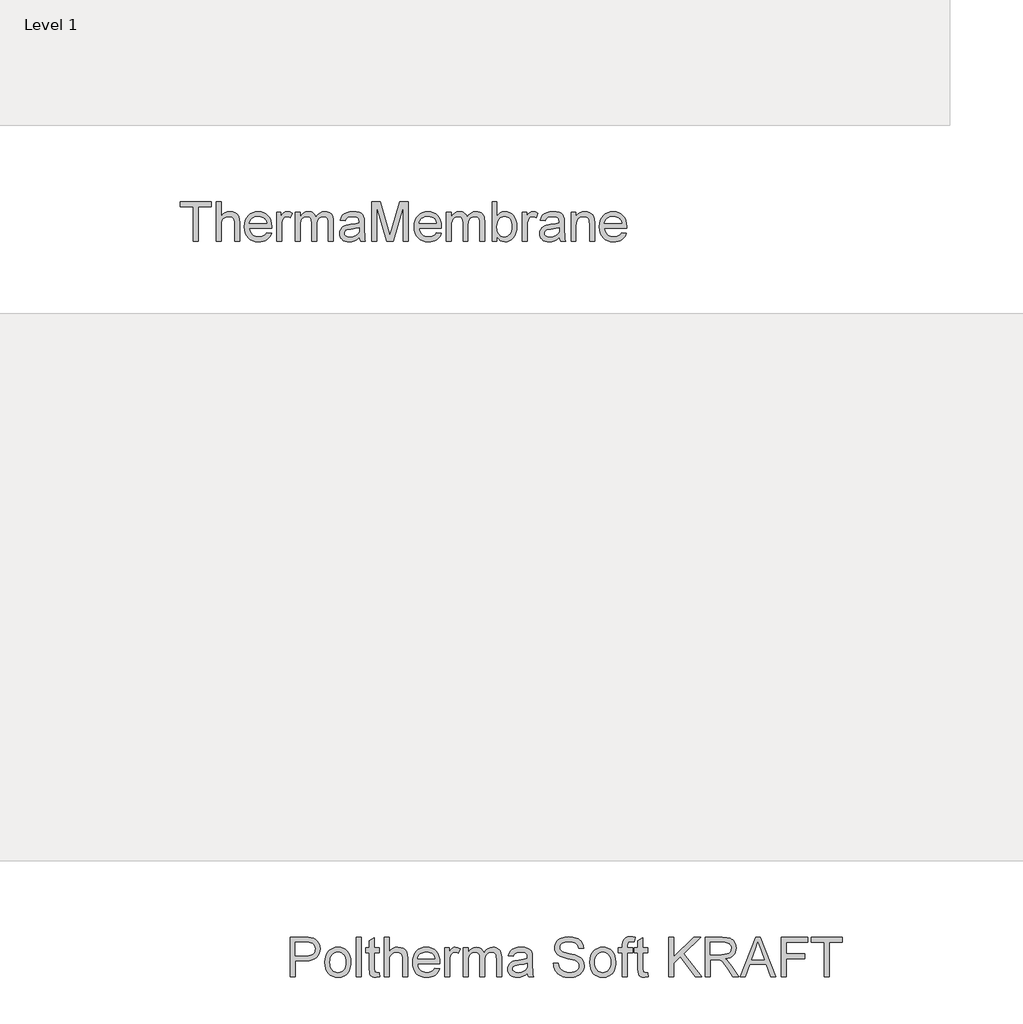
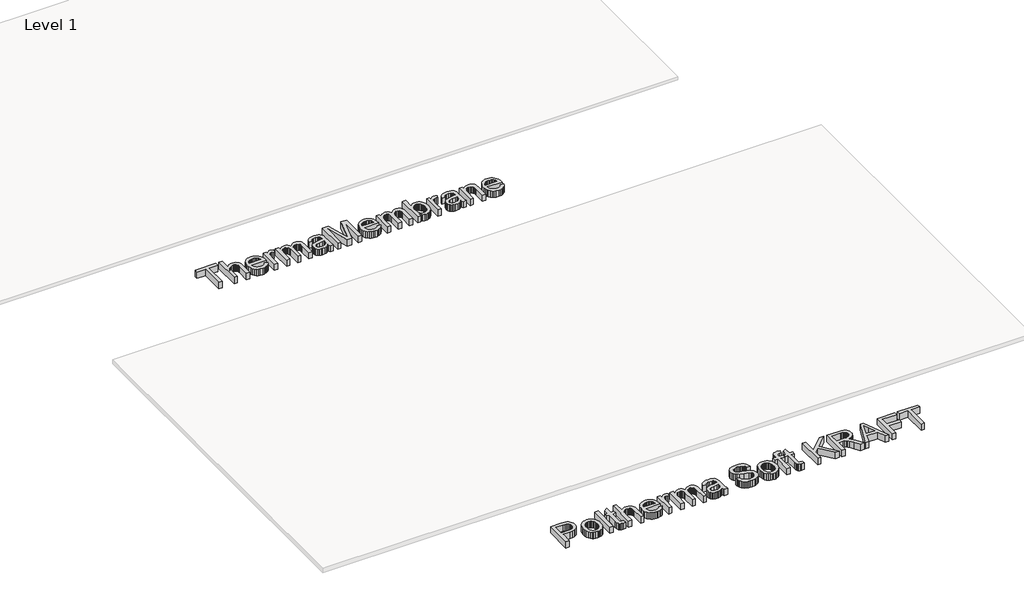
# One storey, part 24 of 27: 2 proxies.
"""IFC4 building model written with IfcOpenShell, lengths in millimetres."""

from ifc_helpers import new_model, si_unit, origin, origin_with_axes, place, context, project, spatial, polyline, outline, extrude, element, save

model = new_model("IFC4")

# Units and contexts
model_context = context("Model", 3, world=origin())
ifc_project = project(units=[si_unit("LENGTHUNIT", "METRE", prefix="MILLI")], contexts=[model_context])

# Site, building, storey
site = spatial("IfcSite", under=ifc_project)
building = spatial("IfcBuilding", under=site)
storey = spatial("IfcBuildingStorey", under=building, Name="Level 1", Elevation=0.0)

# Proxies
placement = place(None, origin())
element("IfcBuildingElementProxy", 1, Name="600mm Arial", ObjectType="600mm Arial", at=placement, inside=storey, context=model_context, shape_type="SweptSolid", body=[
    extrude(outline(polyline([(64774.77699, -34088.4076888), (64774.77699, -33571.4846119), (64580.9308362, -33571.4846119), (64580.9308362, -33497.6384581), (65042.4692977, -33497.6384581), (65042.4692977, -33571.4846119), (64848.6231439, -33571.4846119), (64848.6231439, -34088.4076888), (64774.77699, -34088.4076888)])), origin_with_axes(), (0.0, 0.0, 1.0), 150.0),
    extrude(outline(polyline([(65116.3154516, -34088.4076888), (65116.3154516, -33497.6384581), (65190.1616054, -33497.6384581), (65190.1616054, -33714.8499965), (65217.2860045, -33684.4353331), (65247.74574, -33662.7105734), (65281.5408122, -33649.6757177), (65318.6712208, -33645.3307657), (65363.2745862, -33650.0723523), (65401.6039131, -33664.2971119), (65431.7842016, -33686.8872561), (65451.9404516, -33716.7249965), (65463.2986247, -33757.7225927), (65467.0846824, -33813.7923042), (65467.0846824, -34088.4076888), (65393.2385285, -34088.4076888), (65393.2385285, -33821.436535), (65391.7691775, -33796.5026407), (65387.3611247, -33775.2105734), (65380.0143699, -33757.5603331), (65369.7289131, -33743.5519196), (65356.7481439, -33732.8878571), (65341.3154516, -33725.2706696), (65323.4308362, -33720.7003571), (65303.0942977, -33719.1769196), (65271.886365, -33723.2874965), (65242.58949, -33735.6192273), (65218.3226631, -33754.9822081), (65202.2048747, -33780.186535), (65193.1724227, -33813.6841311), (65190.1616054, -33857.9269196), (65190.1616054, -34088.4076888), (65116.3154516, -34088.4076888)])), origin_with_axes(), (0.0, 0.0, 1.0), 150.0),
    extrude(outline(polyline([(65872.3731439, -33959.1769196), (65944.77699, -33968.4076888), (65933.675728, -33997.4070879), (65918.6892497, -34022.9629773), (65899.8175549, -34045.0753571), (65877.0606439, -34063.7442273), (65850.6528915, -34078.5729532), (65820.8286727, -34089.1649004), (65787.5879876, -34095.5200686), (65750.9308362, -34097.6384581), (65705.1105237, -34093.9831095), (65664.2842016, -34083.0170638), (65628.4518699, -34064.740321), (65597.6135285, -34039.1528811), (65572.8148506, -34006.9668835), (65555.1015093, -33968.8944677), (65544.4735045, -33924.9356335), (65540.9308362, -33875.0903811), (65544.5095622, -33823.5549244), (65555.24574, -33778.1312465), (65573.1393699, -33738.8193475), (65598.1904516, -33705.6192273), (65628.9476631, -33679.2430254), (65663.9596824, -33660.4028811), (65703.2265093, -33649.0987946), (65746.7481439, -33645.3307657), (65788.8680357, -33649.0897802), (65826.9584804, -33660.3668234), (65861.019478, -33679.1618956), (65891.0510285, -33705.4749965), (65915.5657521, -33738.6030013), (65933.0762689, -33777.842785), (65943.582579, -33823.1943475), (65947.0846824, -33874.6576888), (65946.65199, -33894.561535), (65614.77699, -33894.561535), (65619.0543338, -33924.029684), (65627.559442, -33949.8379773), (65640.2923146, -33971.9864148), (65657.2529516, -33990.4749965), (65677.503853, -34005.0513186), (65700.1075189, -34015.4629773), (65725.0639492, -34021.7099725), (65752.3731439, -34023.7923042), (65791.6760285, -34019.9341311), (65824.77699, -34008.3596119), (65851.6760285, -33988.3475927), (65872.3731439, -33959.1769196)]), holes=[polyline([(65614.77699, -33820.7153811), (65873.2385285, -33820.7153811), (65863.2505477, -33781.7009581), (65854.6598025, -33766.35841), (65843.6712208, -33753.7923042), (65823.5329997, -33738.6480734), (65800.6183362, -33727.8307657), (65774.9272304, -33721.3403811), (65746.4596824, -33719.1769196), (65720.4936367, -33720.9031816), (65696.6820381, -33726.0819677), (65675.0248867, -33734.7132778), (65655.5221824, -33746.7971119), (65639.1564973, -33761.7745758), (65626.9104035, -33779.0867754), (65618.7839011, -33798.7337105), (65614.77699, -33820.7153811)])]), origin_with_axes(), (0.0, 0.0, 1.0), 150.0),
    extrude(outline(polyline([(66020.9308362, -34088.4076888), (66020.9308362, -33654.561535), (66085.5462208, -33654.561535), (66085.5462208, -33718.7442273), (66109.4164131, -33681.5326888), (66131.4116054, -33659.6096119), (66153.4789131, -33648.9004773), (66177.5654516, -33645.3307657), (66214.3442977, -33651.0278811), (66251.700067, -33668.1192273), (66227.0366054, -33734.3211504), (66201.075067, -33722.9629773), (66175.1135285, -33719.1769196), (66153.0642497, -33722.8187465), (66133.3587208, -33733.7442273), (66117.4392497, -33751.124035), (66106.7481439, -33774.1288427), (66097.7697785, -33815.3788427), (66094.77699, -33860.3788427), (66094.77699, -34088.4076888), (66020.9308362, -34088.4076888)])), origin_with_axes(), (0.0, 0.0, 1.0), 150.0),
    extrude(outline(polyline([(66297.8539131, -34088.4076888), (66297.8539131, -33654.561535), (66371.700067, -33654.561535), (66371.700067, -33725.9557657), (66393.9116054, -33693.1612946), (66422.4692977, -33667.4701888), (66456.3995862, -33650.8656215), (66494.7289131, -33645.3307657), (66535.7986247, -33650.9737946), (66553.277591, -33658.0275806), (66568.7192977, -33667.9028811), (66593.3106439, -33695.0002369), (66609.3923747, -33731.1480734), (66636.309442, -33693.6030013), (66667.012567, -33666.7850927), (66701.5017497, -33650.6943475), (66739.77699, -33645.3307657), (66769.3397905, -33647.5618355), (66795.2878074, -33654.2550446), (66817.6210405, -33665.4103931), (66836.33949, -33681.0278811), (66851.1366655, -33701.287797), (66861.7060766, -33726.3704292), (66868.0477232, -33756.2757778), (66870.1616054, -33791.0038427), (66870.1616054, -34088.4076888), (66796.3154516, -34088.4076888), (66796.3154516, -33822.7346119), (66794.6027112, -33785.9016792), (66789.46449, -33761.0759581), (66779.8370862, -33744.0747561), (66764.6567977, -33730.7153811), (66745.1315574, -33722.061535), (66722.4692977, -33719.1769196), (66701.5423146, -33721.0248763), (66682.4632881, -33726.5687465), (66665.2322184, -33735.8085302), (66649.8491054, -33748.7442273), (66637.1973626, -33765.7544436), (66628.1604035, -33787.217785), (66622.738228, -33813.1342513), (66620.9308362, -33843.5038427), (66620.9308362, -34088.4076888), (66547.0846824, -34088.4076888), (66547.0846824, -33814.5134581), (66542.8118458, -33772.7586504), (66529.9933362, -33742.9749965), (66520.081978, -33732.5633379), (66507.4392497, -33725.1264388), (66492.0651511, -33720.6642994), (66473.9596824, -33719.1769196), (66445.5101631, -33723.1432657), (66419.2962208, -33735.0423042), (66397.6616054, -33754.5855734), (66382.950067, -33781.4846119), (66374.512567, -33818.8043234), (66371.700067, -33869.6096119), (66371.700067, -34088.4076888), (66297.8539131, -34088.4076888)])), origin_with_axes(), (0.0, 0.0, 1.0), 150.0),
    extrude(outline(polyline([(67257.8539131, -34033.0230734), (67222.5714612, -34063.2754773), (67186.2433362, -34083.0711504), (67148.0402112, -34093.9966311), (67107.1327593, -34097.6384581), (67074.2526511, -34095.4479532), (67045.4200189, -34088.8764388), (67020.6348626, -34077.9239148), (66999.8971824, -34062.5903811), (66983.5224828, -34043.8493956), (66971.8262689, -34022.6745157), (66964.8085405, -33999.0657417), (66962.4692977, -33973.0230734), (66966.0029516, -33942.4100927), (66976.6039131, -33914.6096119), (66992.9560766, -33890.811535), (67013.7433362, -33872.2057657), (67038.1724227, -33858.1432657), (67065.450067, -33847.9749965), (67129.3442977, -33836.8692273), (67204.8491054, -33825.186535), (67257.4212208, -33811.4846119), (67257.8539131, -33795.0423042), (67252.7697785, -33762.0855734), (67246.4146102, -33749.8800446), (67237.5173747, -33740.5230734), (67222.1387689, -33731.1841311), (67203.4067977, -33724.5134581), (67155.8827593, -33719.1769196), (67111.8923747, -33722.7286023), (67081.1712208, -33733.3836504), (67060.2217016, -33753.0891792), (67045.5462208, -33783.7923042), (66971.700067, -33774.561535), (66984.5185766, -33734.1769196), (67003.6471824, -33702.4461504), (67030.87074, -33678.1793234), (67067.9741054, -33660.186535), (67113.3527112, -33649.0447081), (67165.40199, -33645.3307657), (67215.323865, -33648.6120157), (67254.8971824, -33658.4557657), (67284.7349227, -33673.2574484), (67305.450067, -33691.4124965), (67319.1880477, -33713.85841), (67328.0942977, -33741.5326888), (67331.700067, -33806.1480734), (67331.700067, -33898.0230734), (67335.450067, -34026.3163427), (67341.0029516, -34058.0290831), (67350.1616054, -34088.4076888), (67276.3154516, -34088.4076888), (67264.4885285, -34062.7346119), (67257.8539131, -34033.0230734)]), holes=[polyline([(67257.8539131, -33885.3307657), (67208.2385285, -33897.6264388), (67138.7192977, -33907.9749965), (67075.1856439, -33919.9461504), (67058.653192, -33928.1312465), (67046.4116054, -33939.4173042), (67038.83949, -33952.9389388), (67036.3154516, -33967.8307657), (67041.8142497, -33989.7899004), (67058.3106439, -34007.7826888), (67085.4440574, -34019.7899004), (67122.8539131, -34023.7923042), (67162.5173747, -34019.3752369), (67197.5654516, -34006.124035), (67225.9789131, -33986.5987946), (67245.7385285, -33963.3596119), (67254.5005477, -33939.4173042), (67257.4212208, -33906.2442273), (67257.8539131, -33885.3307657)])]), origin_with_axes(), (0.0, 0.0, 1.0), 150.0),
    extrude(outline(polyline([(67442.4692977, -34088.4076888), (67442.4692977, -33497.6384581), (67569.5366054, -33497.6384581), (67690.40199, -33914.0326888), (67714.77699, -34001.0038427), (67741.1712208, -33906.8211504), (67860.0173747, -33497.6384581), (67987.0846824, -33497.6384581), (67987.0846824, -34088.4076888), (67913.2385285, -34088.4076888), (67913.2385285, -33571.4846119), (67764.825067, -34088.4076888), (67664.7289131, -34088.4076888), (67516.3154516, -33571.4846119), (67516.3154516, -34088.4076888), (67442.4692977, -34088.4076888)])), origin_with_axes(), (0.0, 0.0, 1.0), 150.0),
    extrude(outline(polyline([(68410.8346824, -33959.1769196), (68483.2385285, -33968.4076888), (68472.1372665, -33997.4070879), (68457.1507881, -34022.9629773), (68438.2790934, -34045.0753571), (68415.5221824, -34063.7442273), (68389.1144299, -34078.5729532), (68359.2902112, -34089.1649004), (68326.0495261, -34095.5200686), (68289.3923747, -34097.6384581), (68243.5720622, -34093.9831095), (68202.74574, -34083.0170638), (68166.9134083, -34064.740321), (68136.075067, -34039.1528811), (68111.2763891, -34006.9668835), (68093.5630477, -33968.8944677), (68082.9350429, -33924.9356335), (68079.3923747, -33875.0903811), (68082.9711006, -33823.5549244), (68093.7072785, -33778.1312465), (68111.6009083, -33738.8193475), (68136.65199, -33705.6192273), (68167.4092016, -33679.2430254), (68202.4212208, -33660.4028811), (68241.6880477, -33649.0987946), (68285.2096824, -33645.3307657), (68327.3295742, -33649.0897802), (68365.4200189, -33660.3668234), (68399.4810165, -33679.1618956), (68429.512567, -33705.4749965), (68454.0272905, -33738.6030013), (68471.5378074, -33777.842785), (68482.0441174, -33823.1943475), (68485.5462208, -33874.6576888), (68485.1135285, -33894.561535), (68153.2385285, -33894.561535), (68157.5158723, -33924.029684), (68166.0209804, -33949.8379773), (68178.753853, -33971.9864148), (68195.71449, -33990.4749965), (68215.9653915, -34005.0513186), (68238.5690574, -34015.4629773), (68263.5254876, -34021.7099725), (68290.8346824, -34023.7923042), (68330.137567, -34019.9341311), (68363.2385285, -34008.3596119), (68390.137567, -33988.3475927), (68410.8346824, -33959.1769196)]), holes=[polyline([(68153.2385285, -33820.7153811), (68411.700067, -33820.7153811), (68401.7120862, -33781.7009581), (68393.121341, -33766.35841), (68382.1327593, -33753.7923042), (68361.9945381, -33738.6480734), (68339.0798747, -33727.8307657), (68313.3887689, -33721.3403811), (68284.9212208, -33719.1769196), (68258.9551751, -33720.9031816), (68235.1435766, -33726.0819677), (68213.4864251, -33734.7132778), (68193.9837208, -33746.7971119), (68177.6180357, -33761.7745758), (68165.371942, -33779.0867754), (68157.2454396, -33798.7337105), (68153.2385285, -33820.7153811)])]), origin_with_axes(), (0.0, 0.0, 1.0), 150.0),
    extrude(outline(polyline([(68559.3923747, -34088.4076888), (68559.3923747, -33654.561535), (68633.2385285, -33654.561535), (68633.2385285, -33725.9557657), (68655.450067, -33693.1612946), (68684.0077593, -33667.4701888), (68717.9380477, -33650.8656215), (68756.2673747, -33645.3307657), (68797.3370862, -33650.9737946), (68814.8160525, -33658.0275806), (68830.2577593, -33667.9028811), (68854.8491054, -33695.0002369), (68870.9308362, -33731.1480734), (68897.8479035, -33693.6030013), (68928.5510285, -33666.7850927), (68963.0402112, -33650.6943475), (69001.3154516, -33645.3307657), (69030.8782521, -33647.5618355), (69056.8262689, -33654.2550446), (69079.1595021, -33665.4103931), (69097.8779516, -33681.0278811), (69112.6751271, -33701.287797), (69123.2445381, -33726.3704292), (69129.5861848, -33756.2757778), (69131.700067, -33791.0038427), (69131.700067, -34088.4076888), (69057.8539131, -34088.4076888), (69057.8539131, -33822.7346119), (69056.1411727, -33785.9016792), (69051.0029516, -33761.0759581), (69041.3755477, -33744.0747561), (69026.1952593, -33730.7153811), (69006.6700189, -33722.061535), (68984.0077593, -33719.1769196), (68963.0807761, -33721.0248763), (68944.0017497, -33726.5687465), (68926.7706799, -33735.8085302), (68911.387567, -33748.7442273), (68898.7358242, -33765.7544436), (68889.698865, -33787.217785), (68884.2766896, -33813.1342513), (68882.4692977, -33843.5038427), (68882.4692977, -34088.4076888), (68808.6231439, -34088.4076888), (68808.6231439, -33814.5134581), (68804.3503074, -33772.7586504), (68791.5317977, -33742.9749965), (68781.6204396, -33732.5633379), (68768.9777112, -33725.1264388), (68753.6036126, -33720.6642994), (68735.4981439, -33719.1769196), (68707.0486247, -33723.1432657), (68680.8346824, -33735.0423042), (68659.200067, -33754.5855734), (68644.4885285, -33781.4846119), (68636.0510285, -33818.8043234), (68633.2385285, -33869.6096119), (68633.2385285, -34088.4076888), (68559.3923747, -34088.4076888)])), origin_with_axes(), (0.0, 0.0, 1.0), 150.0),
    extrude(outline(polyline([(69316.3154516, -34088.4076888), (69242.4692977, -34088.4076888), (69242.4692977, -33497.6384581), (69316.3154516, -33497.6384581), (69316.3154516, -33716.7249965), (69340.6003074, -33685.4900206), (69368.0221824, -33663.1793234), (69398.5810766, -33649.7929052), (69432.27699, -33645.3307657), (69470.3178554, -33649.3511984), (69506.2673747, -33661.4124965), (69538.0702593, -33680.7574484), (69563.6712208, -33706.6288427), (69583.7373266, -33738.7742754), (69598.9356439, -33776.9413427), (69608.5089612, -33819.5435061), (69611.700067, -33864.9942273), (69608.3962809, -33917.4401407), (69598.4849227, -33963.5759581), (69581.9659924, -34003.4016792), (69558.83949, -34036.9173042), (69531.0795742, -34063.482809), (69500.6604035, -34082.4581696), (69467.581978, -34093.8433859), (69431.8442977, -34097.6384581), (69397.0396102, -34092.7436263), (69366.18324, -34078.0591311), (69339.2751872, -34053.5849725), (69316.3154516, -34019.3211504), (69316.3154516, -34088.4076888)]), holes=[polyline([(69316.3154516, -33868.4557657), (69321.3635285, -33930.0423042), (69327.6736247, -33953.3716311), (69336.5077593, -33971.7249965), (69354.4013891, -33994.5044436), (69375.1976631, -34010.7754773), (69398.8965814, -34020.5380975), (69425.4981439, -34023.7923042), (69447.5834804, -34021.3944677), (69468.1183362, -34014.2009581), (69487.1027112, -34002.2117754), (69504.5366054, -33985.4269196), (69519.1129275, -33963.8914629), (69529.5245862, -33937.6504773), (69535.7715814, -33906.7039629), (69537.8539131, -33871.0519196), (69535.8572184, -33834.7237946), (69529.8671343, -33803.4798042), (69519.8836607, -33777.3199484), (69505.9067977, -33756.2442273), (69489.0994059, -33740.0272802), (69470.6243458, -33728.4437465), (69450.4816174, -33721.4936263), (69428.6712208, -33719.1769196), (69406.5858843, -33721.5747561), (69386.0510285, -33728.7682657), (69367.0666535, -33740.7574484), (69349.6327593, -33757.5423042), (69335.0564372, -33778.8614148), (69324.6447785, -33804.4533619), (69318.3977833, -33834.3181456), (69316.3154516, -33868.4557657)])]), origin_with_axes(), (0.0, 0.0, 1.0), 150.0),
    extrude(outline(polyline([(69694.77699, -34088.4076888), (69694.77699, -33654.561535), (69759.3923747, -33654.561535), (69759.3923747, -33718.7442273), (69783.262567, -33681.5326888), (69805.2577593, -33659.6096119), (69827.325067, -33648.9004773), (69851.4116054, -33645.3307657), (69888.1904516, -33651.0278811), (69925.5462208, -33668.1192273), (69900.8827593, -33734.3211504), (69874.9212208, -33722.9629773), (69848.9596824, -33719.1769196), (69826.9104035, -33722.8187465), (69807.2048747, -33733.7442273), (69791.2854035, -33751.124035), (69780.5942977, -33774.1288427), (69771.6159324, -33815.3788427), (69768.6231439, -33860.3788427), (69768.6231439, -34088.4076888), (69694.77699, -34088.4076888)])), origin_with_axes(), (0.0, 0.0, 1.0), 150.0),
    extrude(outline(polyline([(70248.6231439, -34033.0230734), (70213.340692, -34063.2754773), (70177.012567, -34083.0711504), (70138.809442, -34093.9966311), (70097.90199, -34097.6384581), (70065.0218819, -34095.4479532), (70036.1892497, -34088.8764388), (70011.4040934, -34077.9239148), (69990.6664131, -34062.5903811), (69974.2917136, -34043.8493956), (69962.5954997, -34022.6745157), (69955.5777713, -33999.0657417), (69953.2385285, -33973.0230734), (69956.7721824, -33942.4100927), (69967.3731439, -33914.6096119), (69983.7253074, -33890.811535), (70004.512567, -33872.2057657), (70028.9416535, -33858.1432657), (70056.2192977, -33847.9749965), (70120.1135285, -33836.8692273), (70195.6183362, -33825.186535), (70248.1904516, -33811.4846119), (70248.6231439, -33795.0423042), (70243.5390093, -33762.0855734), (70237.183841, -33749.8800446), (70228.2866054, -33740.5230734), (70212.9079997, -33731.1841311), (70194.1760285, -33724.5134581), (70146.65199, -33719.1769196), (70102.6616054, -33722.7286023), (70071.9404516, -33733.3836504), (70050.9909324, -33753.0891792), (70036.3154516, -33783.7923042), (69962.4692977, -33774.561535), (69975.2878074, -33734.1769196), (69994.4164131, -33702.4461504), (70021.6399708, -33678.1793234), (70058.7433362, -33660.186535), (70104.121942, -33649.0447081), (70156.1712208, -33645.3307657), (70206.0930958, -33648.6120157), (70245.6664131, -33658.4557657), (70275.5041535, -33673.2574484), (70296.2192977, -33691.4124965), (70309.9572785, -33713.85841), (70318.8635285, -33741.5326888), (70322.4692977, -33806.1480734), (70322.4692977, -33898.0230734), (70326.2192977, -34026.3163427), (70331.7721824, -34058.0290831), (70340.9308362, -34088.4076888), (70267.0846824, -34088.4076888), (70255.2577593, -34062.7346119), (70248.6231439, -34033.0230734)]), holes=[polyline([(70248.6231439, -33885.3307657), (70199.0077593, -33897.6264388), (70129.4885285, -33907.9749965), (70065.9548747, -33919.9461504), (70049.4224227, -33928.1312465), (70037.1808362, -33939.4173042), (70029.6087208, -33952.9389388), (70027.0846824, -33967.8307657), (70032.5834804, -33989.7899004), (70049.0798747, -34007.7826888), (70076.2132881, -34019.7899004), (70113.6231439, -34023.7923042), (70153.2866054, -34019.3752369), (70188.3346824, -34006.124035), (70216.7481439, -33986.5987946), (70236.5077593, -33963.3596119), (70245.2697785, -33939.4173042), (70248.1904516, -33906.2442273), (70248.6231439, -33885.3307657)])]), origin_with_axes(), (0.0, 0.0, 1.0), 150.0),
    extrude(outline(polyline([(70424.0077593, -34088.4076888), (70424.0077593, -33654.561535), (70497.8539131, -33654.561535), (70497.8539131, -33715.1384581), (70523.5089612, -33684.5975927), (70554.3202593, -33662.7826888), (70590.2878074, -33649.6937465), (70631.4116054, -33645.3307657), (70667.8118458, -33648.8463907), (70701.1471824, -33659.3932657), (70728.9476631, -33675.655285), (70748.7433362, -33696.3163427), (70762.1748266, -33721.3223523), (70770.8827593, -33750.6192273), (70774.77699, -33822.0134581), (70774.77699, -34088.4076888), (70700.9308362, -34088.4076888), (70700.9308362, -33831.9653811), (70698.8034324, -33793.780285), (70692.4212208, -33766.6288427), (70680.6483843, -33747.1757177), (70662.3491054, -33732.0855734), (70638.8935766, -33722.4040831), (70611.65199, -33719.1769196), (70589.2286126, -33720.9888186), (70568.4007881, -33726.4245157), (70549.1685165, -33735.4840109), (70531.5317977, -33748.1673042), (70516.7977232, -33765.9167032), (70506.2733843, -33790.1745157), (70499.9587809, -33820.9407417), (70497.8539131, -33858.2153811), (70497.8539131, -34088.4076888), (70424.0077593, -34088.4076888)])), origin_with_axes(), (0.0, 0.0, 1.0), 150.0),
    extrude(outline(polyline([(71180.0654516, -33959.1769196), (71252.4692977, -33968.4076888), (71241.3680357, -33997.4070879), (71226.3815574, -34022.9629773), (71207.5098626, -34045.0753571), (71184.7529516, -34063.7442273), (71158.3451992, -34078.5729532), (71128.5209804, -34089.1649004), (71095.2802953, -34095.5200686), (71058.6231439, -34097.6384581), (71012.8028314, -34093.9831095), (70971.9765093, -34083.0170638), (70936.1441775, -34064.740321), (70905.3058362, -34039.1528811), (70880.5071583, -34006.9668835), (70862.793817, -33968.8944677), (70852.1658122, -33924.9356335), (70848.6231439, -33875.0903811), (70852.2018699, -33823.5549244), (70862.9380477, -33778.1312465), (70880.8316775, -33738.8193475), (70905.8827593, -33705.6192273), (70936.6399708, -33679.2430254), (70971.65199, -33660.4028811), (71010.918817, -33649.0987946), (71054.4404516, -33645.3307657), (71096.5603434, -33649.0897802), (71134.6507881, -33660.3668234), (71168.7117857, -33679.1618956), (71198.7433362, -33705.4749965), (71223.2580598, -33738.6030013), (71240.7685766, -33777.842785), (71251.2748867, -33823.1943475), (71254.77699, -33874.6576888), (71254.3442977, -33894.561535), (70922.4692977, -33894.561535), (70926.7466415, -33924.029684), (70935.2517497, -33949.8379773), (70947.9846223, -33971.9864148), (70964.9452593, -33990.4749965), (70985.1961607, -34005.0513186), (71007.7998266, -34015.4629773), (71032.7562569, -34021.7099725), (71060.0654516, -34023.7923042), (71099.3683362, -34019.9341311), (71132.4692977, -34008.3596119), (71159.3683362, -33988.3475927), (71180.0654516, -33959.1769196)]), holes=[polyline([(70922.4692977, -33820.7153811), (71180.9308362, -33820.7153811), (71170.9428554, -33781.7009581), (71162.3521102, -33766.35841), (71151.3635285, -33753.7923042), (71131.2253074, -33738.6480734), (71108.3106439, -33727.8307657), (71082.6195381, -33721.3403811), (71054.15199, -33719.1769196), (71028.1859444, -33720.9031816), (71004.3743458, -33726.0819677), (70982.7171944, -33734.7132778), (70963.21449, -33746.7971119), (70946.8488049, -33761.7745758), (70934.6027112, -33779.0867754), (70926.4762088, -33798.7337105), (70922.4692977, -33820.7153811)])]), origin_with_axes(), (0.0, 0.0, 1.0), 150.0),
])
element("IfcBuildingElementProxy", 2, Name="600mm Arial", ObjectType="600mm Arial", at=placement, inside=storey, context=model_context, shape_type="SweptSolid", body=[
    extrude(outline(polyline([(66227.0846824, -45088.4076888), (66227.0846824, -44497.6384581), (66446.02699, -44497.6384581), (66497.012567, -44499.0447081), (66534.2962208, -44503.2634581), (66573.653192, -44513.7742754), (66606.0510285, -44530.8836504), (66632.1387689, -44555.3668234), (66652.5654516, -44587.999035), (66665.762567, -44626.4906215), (66670.1616054, -44668.5519196), (66667.191353, -44704.8169436), (66658.2805958, -44738.1793234), (66643.4293338, -44768.639059), (66622.637567, -44796.1961504), (66594.0933963, -44819.0386984), (66555.9849227, -44835.3548042), (66508.3121463, -44845.1444677), (66451.075067, -44848.4076888), (66300.9308362, -44848.4076888), (66300.9308362, -45088.4076888), (66227.0846824, -45088.4076888)]), holes=[polyline([(66300.9308362, -44774.561535), (66455.40199, -44774.561535), (66490.918817, -44772.8668234), (66520.8827593, -44767.7826888), (66545.293817, -44759.3091311), (66564.15199, -44747.4461504), (66578.2235045, -44732.5092513), (66588.2745862, -44714.8139388), (66594.3052352, -44694.3602129), (66596.3154516, -44671.1480734), (66591.573865, -44637.9749965), (66577.3491054, -44609.9942273), (66555.4079997, -44588.936535), (66527.5173747, -44576.5326888), (66499.0317977, -44572.7466311), (66453.6712208, -44571.4846119), (66300.9308362, -44571.4846119), (66300.9308362, -44774.561535)])]), origin_with_axes(), (0.0, 0.0, 1.0), 150.0),
    extrude(outline(polyline([(66744.0077593, -44871.4846119), (66748.0011487, -44815.2977129), (66759.981317, -44766.8812465), (66779.9482641, -44726.2352129), (66807.90199, -44693.3596119), (66836.0450189, -44672.3469917), (66867.1087208, -44657.3379773), (66901.0930958, -44648.3325686), (66937.9981439, -44645.3307657), (66978.738829, -44648.9861143), (67015.5762689, -44659.95216), (67048.5104636, -44678.2289028), (67077.5414131, -44703.8163427), (67101.2358242, -44735.8490951), (67118.1604035, -44773.4617754), (67128.3151511, -44816.6543835), (67131.700067, -44865.4269196), (67130.2036727, -44904.9551648), (67125.71449, -44940.030285), (67118.2325189, -44970.6522802), (67107.7577593, -44996.8211504), (67094.4209203, -45019.4248162), (67078.3527112, -45039.3511984), (67059.5531319, -45056.600297), (67038.0221824, -45071.1721119), (67014.598204, -45082.7511383), (66990.1195381, -45091.0218715), (66964.5861848, -45095.9843114), (66937.9981439, -45097.6384581), (66896.6625069, -45093.9966311), (66859.4825189, -45083.0711504), (66826.4581799, -45064.8620157), (66797.58949, -45039.3692273), (66774.1474828, -45007.0254773), (66757.403192, -44968.2634581), (66747.3566174, -44923.0831696), (66744.0077593, -44871.4846119)]), holes=[polyline([(66817.8539131, -44871.3403811), (66819.9903314, -44907.1591912), (66826.3995862, -44938.1733138), (66837.0816775, -44964.3827489), (66852.0366054, -44985.7874965), (66870.2277112, -45002.4145999), (66890.6183362, -45014.2911023), (66913.2084804, -45021.4170037), (66937.9981439, -45023.7923042), (66962.6616054, -45021.4034821), (66985.1616054, -45014.2370157), (67005.4981439, -45002.2929052), (67023.6712208, -44985.5711504), (67038.6261487, -44963.9545638), (67049.30824, -44937.3259581), (67055.7174949, -44905.6853331), (67057.8539131, -44869.0326888), (67055.7039732, -44834.349696), (67049.2541535, -44804.1468715), (67038.504454, -44778.4242153), (67023.4548747, -44757.1817273), (67005.2141896, -44740.5546239), (66984.8911727, -44728.6781215), (66962.4858242, -44721.5522201), (66937.9981439, -44719.1769196), (66913.2084804, -44721.5432056), (66890.6183362, -44728.6420638), (66870.2277112, -44740.4734941), (66852.0366054, -44757.0374965), (66837.0816775, -44778.3791431), (66826.3995862, -44804.5435061), (66819.9903314, -44835.5305855), (66817.8539131, -44871.3403811)])]), origin_with_axes(), (0.0, 0.0, 1.0), 150.0),
    extrude(outline(polyline([(67214.77699, -45088.4076888), (67214.77699, -44497.6384581), (67288.6231439, -44497.6384581), (67288.6231439, -45088.4076888), (67214.77699, -45088.4076888)])), origin_with_axes(), (0.0, 0.0, 1.0), 150.0),
    extrude(outline(polyline([(67556.3154516, -45026.8211504), (67565.5462208, -45090.5711504), (67510.3058362, -45097.6384581), (67474.8611247, -45094.5735542), (67448.4308362, -45085.3788427), (67429.7529516, -45071.2081696), (67417.5654516, -45053.2153811), (67410.8587208, -45022.3139388), (67408.6231439, -44969.4173042), (67408.6231439, -44728.4076888), (67353.2385285, -44728.4076888), (67353.2385285, -44654.561535), (67408.6231439, -44654.561535), (67408.6231439, -44549.1288427), (67482.4692977, -44505.7153811), (67482.4692977, -44654.561535), (67556.3154516, -44654.561535), (67556.3154516, -44728.4076888), (67482.4692977, -44728.4076888), (67482.4692977, -44967.2538427), (67486.3635285, -45005.3307657), (67498.9837208, -45018.8163427), (67509.6387689, -45022.5483138), (67524.15199, -45023.7923042), (67556.3154516, -45026.8211504)])), origin_with_axes(), (0.0, 0.0, 1.0), 150.0),
    extrude(outline(polyline([(67630.1616054, -45088.4076888), (67630.1616054, -44497.6384581), (67704.0077593, -44497.6384581), (67704.0077593, -44714.8499965), (67731.1321583, -44684.4353331), (67761.5918939, -44662.7105734), (67795.386966, -44649.6757177), (67832.5173747, -44645.3307657), (67877.12074, -44650.0723523), (67915.450067, -44664.2971119), (67945.6303554, -44686.8872561), (67965.7866054, -44716.7249965), (67977.1447785, -44757.7225927), (67980.9308362, -44813.7923042), (67980.9308362, -45088.4076888), (67907.0846824, -45088.4076888), (67907.0846824, -44821.436535), (67905.6153314, -44796.5026407), (67901.2072785, -44775.2105734), (67893.8605237, -44757.5603331), (67883.575067, -44743.5519196), (67870.5942977, -44732.8878571), (67855.1616054, -44725.2706696), (67837.27699, -44720.7003571), (67816.9404516, -44719.1769196), (67785.7325189, -44723.2874965), (67756.4356439, -44735.6192273), (67732.168817, -44754.9822081), (67716.0510285, -44780.186535), (67707.0185766, -44813.6841311), (67704.0077593, -44857.9269196), (67704.0077593, -45088.4076888), (67630.1616054, -45088.4076888)])), origin_with_axes(), (0.0, 0.0, 1.0), 150.0),
    extrude(outline(polyline([(68386.2192977, -44959.1769196), (68458.6231439, -44968.4076888), (68447.5218819, -44997.4070879), (68432.5354035, -45022.9629773), (68413.6637088, -45045.0753571), (68390.9067977, -45063.7442273), (68364.4990453, -45078.5729532), (68334.6748266, -45089.1649004), (68301.4341415, -45095.5200686), (68264.77699, -45097.6384581), (68218.9566775, -45093.9831095), (68178.1303554, -45083.0170638), (68142.2980237, -45064.740321), (68111.4596824, -45039.1528811), (68086.6610045, -45006.9668835), (68068.9476631, -44968.8944677), (68058.3196583, -44924.9356335), (68054.77699, -44875.0903811), (68058.355716, -44823.5549244), (68069.0918939, -44778.1312465), (68086.9855237, -44738.8193475), (68112.0366054, -44705.6192273), (68142.793817, -44679.2430254), (68177.8058362, -44660.4028811), (68217.0726631, -44649.0987946), (68260.5942977, -44645.3307657), (68302.7141896, -44649.0897802), (68340.8046343, -44660.3668234), (68374.8656319, -44679.1618956), (68404.8971824, -44705.4749965), (68429.4119059, -44738.6030013), (68446.9224227, -44777.842785), (68457.4287328, -44823.1943475), (68460.9308362, -44874.6576888), (68460.4981439, -44894.561535), (68128.6231439, -44894.561535), (68132.9004876, -44924.029684), (68141.4055958, -44949.8379773), (68154.1384684, -44971.9864148), (68171.0991054, -44990.4749965), (68191.3500069, -45005.0513186), (68213.9536727, -45015.4629773), (68238.910103, -45021.7099725), (68266.2192977, -45023.7923042), (68305.5221824, -45019.9341311), (68338.6231439, -45008.3596119), (68365.5221824, -44988.3475927), (68386.2192977, -44959.1769196)]), holes=[polyline([(68128.6231439, -44820.7153811), (68387.0846824, -44820.7153811), (68377.0967016, -44781.7009581), (68368.5059564, -44766.35841), (68357.5173747, -44753.7923042), (68337.3791535, -44738.6480734), (68314.46449, -44727.8307657), (68288.7733843, -44721.3403811), (68260.3058362, -44719.1769196), (68234.3397905, -44720.9031816), (68210.528192, -44726.0819677), (68188.8710405, -44734.7132778), (68169.3683362, -44746.7971119), (68153.0026511, -44761.7745758), (68140.7565574, -44779.0867754), (68132.6300549, -44798.7337105), (68128.6231439, -44820.7153811)])]), origin_with_axes(), (0.0, 0.0, 1.0), 150.0),
    extrude(outline(polyline([(68534.77699, -45088.4076888), (68534.77699, -44654.561535), (68599.3923747, -44654.561535), (68599.3923747, -44718.7442273), (68623.262567, -44681.5326888), (68645.2577593, -44659.6096119), (68667.325067, -44648.9004773), (68691.4116054, -44645.3307657), (68728.1904516, -44651.0278811), (68765.5462208, -44668.1192273), (68740.8827593, -44734.3211504), (68714.9212208, -44722.9629773), (68688.9596824, -44719.1769196), (68666.9104035, -44722.8187465), (68647.2048747, -44733.7442273), (68631.2854035, -44751.124035), (68620.5942977, -44774.1288427), (68611.6159324, -44815.3788427), (68608.6231439, -44860.3788427), (68608.6231439, -45088.4076888), (68534.77699, -45088.4076888)])), origin_with_axes(), (0.0, 0.0, 1.0), 150.0),
    extrude(outline(polyline([(68811.700067, -45088.4076888), (68811.700067, -44654.561535), (68885.5462208, -44654.561535), (68885.5462208, -44725.9557657), (68907.7577593, -44693.1612946), (68936.3154516, -44667.4701888), (68970.24574, -44650.8656215), (69008.575067, -44645.3307657), (69049.6447785, -44650.9737946), (69067.1237449, -44658.0275806), (69082.5654516, -44667.9028811), (69107.1567977, -44695.0002369), (69123.2385285, -44731.1480734), (69150.1555958, -44693.6030013), (69180.8587208, -44666.7850927), (69215.3479035, -44650.6943475), (69253.6231439, -44645.3307657), (69283.1859444, -44647.5618355), (69309.1339612, -44654.2550446), (69331.4671944, -44665.4103931), (69350.1856439, -44681.0278811), (69364.9828194, -44701.287797), (69375.5522304, -44726.3704292), (69381.8938771, -44756.2757778), (69384.0077593, -44791.0038427), (69384.0077593, -45088.4076888), (69310.1616054, -45088.4076888), (69310.1616054, -44822.7346119), (69308.448865, -44785.9016792), (69303.3106439, -44761.0759581), (69293.68324, -44744.0747561), (69278.5029516, -44730.7153811), (69258.9777112, -44722.061535), (69236.3154516, -44719.1769196), (69215.3884684, -44721.0248763), (69196.309442, -44726.5687465), (69179.0783723, -44735.8085302), (69163.6952593, -44748.7442273), (69151.0435165, -44765.7544436), (69142.0065574, -44787.217785), (69136.5843819, -44813.1342513), (69134.77699, -44843.5038427), (69134.77699, -45088.4076888), (69060.9308362, -45088.4076888), (69060.9308362, -44814.5134581), (69056.6579997, -44772.7586504), (69043.83949, -44742.9749965), (69033.9281319, -44732.5633379), (69021.2854035, -44725.1264388), (69005.9113049, -44720.6642994), (68987.8058362, -44719.1769196), (68959.356317, -44723.1432657), (68933.1423747, -44735.0423042), (68911.5077593, -44754.5855734), (68896.7962208, -44781.4846119), (68888.3587208, -44818.8043234), (68885.5462208, -44869.6096119), (68885.5462208, -45088.4076888), (68811.700067, -45088.4076888)])), origin_with_axes(), (0.0, 0.0, 1.0), 150.0),
    extrude(outline(polyline([(69771.700067, -45033.0230734), (69736.417615, -45063.2754773), (69700.08949, -45083.0711504), (69661.886365, -45093.9966311), (69620.9789131, -45097.6384581), (69588.0988049, -45095.4479532), (69559.2661727, -45088.8764388), (69534.4810165, -45077.9239148), (69513.7433362, -45062.5903811), (69497.3686367, -45043.8493956), (69485.6724227, -45022.6745157), (69478.6546944, -44999.0657417), (69476.3154516, -44973.0230734), (69479.8491054, -44942.4100927), (69490.450067, -44914.6096119), (69506.8022304, -44890.811535), (69527.58949, -44872.2057657), (69552.0185766, -44858.1432657), (69579.2962208, -44847.9749965), (69643.1904516, -44836.8692273), (69718.6952593, -44825.186535), (69771.2673747, -44811.4846119), (69771.700067, -44795.0423042), (69766.6159324, -44762.0855734), (69760.2607641, -44749.8800446), (69751.3635285, -44740.5230734), (69735.9849227, -44731.1841311), (69717.2529516, -44724.5134581), (69669.7289131, -44719.1769196), (69625.7385285, -44722.7286023), (69595.0173747, -44733.3836504), (69574.0678554, -44753.0891792), (69559.3923747, -44783.7923042), (69485.5462208, -44774.561535), (69498.3647304, -44734.1769196), (69517.4933362, -44702.4461504), (69544.7168939, -44678.1793234), (69581.8202593, -44660.186535), (69627.198865, -44649.0447081), (69679.2481439, -44645.3307657), (69729.1700189, -44648.6120157), (69768.7433362, -44658.4557657), (69798.5810766, -44673.2574484), (69819.2962208, -44691.4124965), (69833.0342016, -44713.85841), (69841.9404516, -44741.5326888), (69845.5462208, -44806.1480734), (69845.5462208, -44898.0230734), (69849.2962208, -45026.3163427), (69854.8491054, -45058.0290831), (69864.0077593, -45088.4076888), (69790.1616054, -45088.4076888), (69778.3346824, -45062.7346119), (69771.700067, -45033.0230734)]), holes=[polyline([(69771.700067, -44885.3307657), (69722.0846824, -44897.6264388), (69652.5654516, -44907.9749965), (69589.0317977, -44919.9461504), (69572.4993458, -44928.1312465), (69560.2577593, -44939.4173042), (69552.6856439, -44952.9389388), (69550.1616054, -44967.8307657), (69555.6604035, -44989.7899004), (69572.1567977, -45007.7826888), (69599.2902112, -45019.7899004), (69636.700067, -45023.7923042), (69676.3635285, -45019.3752369), (69711.4116054, -45006.124035), (69739.825067, -44986.5987946), (69759.5846824, -44963.3596119), (69768.3467016, -44939.4173042), (69771.2673747, -44906.2442273), (69771.700067, -44885.3307657)])]), origin_with_axes(), (0.0, 0.0, 1.0), 150.0),
    extrude(outline(polyline([(70159.3923747, -44885.3307657), (70233.2385285, -44885.3307657), (70241.7120862, -44926.3103331), (70257.0366054, -44959.249035), (70280.9428554, -44985.3908619), (70315.1616054, -45005.9798042), (70356.9885285, -45019.3391792), (70403.7192977, -45023.7923042), (70444.8611247, -45020.42091), (70480.8827593, -45010.3067273), (70510.0714612, -44994.2971119), (70530.71449, -44973.2394196), (70542.9921343, -44949.0627369), (70547.0846824, -44923.6961504), (70544.0197785, -44898.9786023), (70534.825067, -44877.6144196), (70516.1471824, -44859.3872561), (70484.6327593, -44844.0807657), (70377.1087208, -44815.8836504), (70306.5257881, -44797.2237946), (70261.3635285, -44779.4653811), (70224.6027112, -44754.6216311), (70198.5510285, -44724.5134581), (70183.028192, -44689.7899004), (70177.8539131, -44651.0999965), (70179.4539732, -44629.1093114), (70184.2541535, -44607.8487946), (70192.254454, -44587.318446), (70203.4548747, -44567.5182657), (70217.7292136, -44549.2550446), (70234.9512689, -44533.3355734), (70255.1210405, -44519.7598523), (70278.2385285, -44508.5278811), (70330.1976631, -44493.4377369), (70387.7096824, -44488.4076888), (70450.0173747, -44493.6721119), (70504.5366054, -44509.4653811), (70528.3887689, -44521.2292032), (70549.3202593, -44535.4629773), (70567.3310766, -44552.1667032), (70582.4212208, -44571.3403811), (70594.4735045, -44592.4251167), (70603.37074, -44614.8620157), (70609.1129275, -44638.6510782), (70611.700067, -44663.7923042), (70537.8539131, -44663.7923042), (70532.9140093, -44640.2286023), (70524.2962208, -44619.7298042), (70512.0005477, -44602.29591), (70496.02699, -44587.9269196), (70476.0780718, -44576.6949484), (70451.856317, -44568.6721119), (70423.3617256, -44563.85841), (70390.5942977, -44562.2538427), (70356.7811968, -44563.8403811), (70327.8899708, -44568.5999965), (70303.9206199, -44576.5326888), (70284.8731439, -44587.6384581), (70270.3599227, -44600.9888186), (70259.9933362, -44615.655285), (70253.7733843, -44631.6378571), (70251.700067, -44648.936535), (70257.5774708, -44677.3139388), (70275.2096824, -44700.1384581), (70291.3995862, -44710.2886984), (70316.8923747, -44720.5471119), (70395.7866054, -44741.3884581), (70477.2048747, -44761.1841311), (70526.4596824, -44778.4557657), (70568.5570381, -44805.2466311), (70584.832579, -44820.9948282), (70597.9260285, -44838.311535), (70607.9906319, -44857.1066071), (70615.1796343, -44877.2899004), (70620.9308362, -44921.8211504), (70619.2766896, -44944.9206095), (70614.3142497, -44967.3439869), (70606.0435165, -44989.0912826), (70594.46449, -45010.1624965), (70579.7799949, -45029.7418234), (70562.1928554, -45047.0134581), (70541.7030718, -45061.9774004), (70518.3106439, -45074.6336504), (70492.6961607, -45084.6982537), (70465.5402112, -45091.8872561), (70406.6039131, -45097.6384581), (70368.8289732, -45096.0879773), (70334.2541535, -45091.436535), (70302.879454, -45083.6841311), (70274.7048747, -45072.8307657), (70249.5591415, -45058.85841), (70227.2709804, -45041.749035), (70207.8403915, -45021.5026407), (70191.2673747, -44998.1192273), (70177.9170141, -44972.3560061), (70168.1543939, -44944.9701888), (70161.9795141, -44915.9617754), (70159.3923747, -44885.3307657)])), origin_with_axes(), (0.0, 0.0, 1.0), 150.0),
    extrude(outline(polyline([(70704.0077593, -44871.4846119), (70708.0011487, -44815.2977129), (70719.981317, -44766.8812465), (70739.9482641, -44726.2352129), (70767.90199, -44693.3596119), (70796.0450189, -44672.3469917), (70827.1087208, -44657.3379773), (70861.0930958, -44648.3325686), (70897.9981439, -44645.3307657), (70938.738829, -44648.9861143), (70975.5762689, -44659.95216), (71008.5104636, -44678.2289028), (71037.5414131, -44703.8163427), (71061.2358242, -44735.8490951), (71078.1604035, -44773.4617754), (71088.3151511, -44816.6543835), (71091.700067, -44865.4269196), (71090.2036727, -44904.9551648), (71085.71449, -44940.030285), (71078.2325189, -44970.6522802), (71067.7577593, -44996.8211504), (71054.4209203, -45019.4248162), (71038.3527112, -45039.3511984), (71019.5531319, -45056.600297), (70998.0221824, -45071.1721119), (70974.598204, -45082.7511383), (70950.1195381, -45091.0218715), (70924.5861848, -45095.9843114), (70897.9981439, -45097.6384581), (70856.6625069, -45093.9966311), (70819.4825189, -45083.0711504), (70786.4581799, -45064.8620157), (70757.58949, -45039.3692273), (70734.1474828, -45007.0254773), (70717.403192, -44968.2634581), (70707.3566174, -44923.0831696), (70704.0077593, -44871.4846119)]), holes=[polyline([(70777.8539131, -44871.3403811), (70779.9903314, -44907.1591912), (70786.3995862, -44938.1733138), (70797.0816775, -44964.3827489), (70812.0366054, -44985.7874965), (70830.2277112, -45002.4145999), (70850.6183362, -45014.2911023), (70873.2084804, -45021.4170037), (70897.9981439, -45023.7923042), (70922.6616054, -45021.4034821), (70945.1616054, -45014.2370157), (70965.4981439, -45002.2929052), (70983.6712208, -44985.5711504), (70998.6261487, -44963.9545638), (71009.30824, -44937.3259581), (71015.7174949, -44905.6853331), (71017.8539131, -44869.0326888), (71015.7039732, -44834.349696), (71009.2541535, -44804.1468715), (70998.504454, -44778.4242153), (70983.4548747, -44757.1817273), (70965.2141896, -44740.5546239), (70944.8911727, -44728.6781215), (70922.4858242, -44721.5522201), (70897.9981439, -44719.1769196), (70873.2084804, -44721.5432056), (70850.6183362, -44728.6420638), (70830.2277112, -44740.4734941), (70812.0366054, -44757.0374965), (70797.0816775, -44778.3791431), (70786.3995862, -44804.5435061), (70779.9903314, -44835.5305855), (70777.8539131, -44871.3403811)])]), origin_with_axes(), (0.0, 0.0, 1.0), 150.0),
    extrude(outline(polyline([(71193.2385285, -45088.4076888), (71193.2385285, -44728.4076888), (71128.6231439, -44728.4076888), (71128.6231439, -44654.561535), (71193.2385285, -44654.561535), (71193.2385285, -44610.8596119), (71195.1856439, -44574.6937465), (71201.02699, -44549.2730734), (71215.8827593, -44524.717785), (71238.8154516, -44505.2826888), (71270.9067977, -44492.6264388), (71313.2385285, -44488.4076888), (71345.293817, -44490.4269196), (71380.5942977, -44496.4846119), (71369.77699, -44565.7153811), (71327.2289131, -44562.2538427), (71299.1579997, -44565.3187465), (71280.71449, -44574.5134581), (71270.4921343, -44592.0735542), (71267.0846824, -44620.2346119), (71267.0846824, -44654.561535), (71350.1616054, -44654.561535), (71350.1616054, -44728.4076888), (71267.0846824, -44728.4076888), (71267.0846824, -45088.4076888), (71193.2385285, -45088.4076888)])), origin_with_axes(), (0.0, 0.0, 1.0), 150.0),
    extrude(outline(polyline([(71571.700067, -45026.8211504), (71580.9308362, -45090.5711504), (71525.6904516, -45097.6384581), (71490.24574, -45094.5735542), (71463.8154516, -45085.3788427), (71445.137567, -45071.2081696), (71432.950067, -45053.2153811), (71426.2433362, -45022.3139388), (71424.0077593, -44969.4173042), (71424.0077593, -44728.4076888), (71368.6231439, -44728.4076888), (71368.6231439, -44654.561535), (71424.0077593, -44654.561535), (71424.0077593, -44549.1288427), (71497.8539131, -44505.7153811), (71497.8539131, -44654.561535), (71571.700067, -44654.561535), (71571.700067, -44728.4076888), (71497.8539131, -44728.4076888), (71497.8539131, -44967.2538427), (71501.7481439, -45005.3307657), (71514.3683362, -45018.8163427), (71525.0233843, -45022.5483138), (71539.5366054, -45023.7923042), (71571.700067, -45026.8211504)])), origin_with_axes(), (0.0, 0.0, 1.0), 150.0),
    extrude(outline(polyline([(71885.5462208, -45088.4076888), (71885.5462208, -44497.6384581), (71959.3923747, -44497.6384581), (71959.3923747, -44786.8211504), (72262.27699, -44497.6384581), (72365.5462208, -44497.6384581), (72111.2673747, -44740.5230734), (72374.77699, -45088.4076888), (72284.4885285, -45088.4076888), (72058.9116054, -44790.4269196), (71959.3923747, -44885.3307657), (71959.3923747, -45088.4076888), (71885.5462208, -45088.4076888)])), origin_with_axes(), (0.0, 0.0, 1.0), 150.0),
    extrude(outline(polyline([(72430.1616054, -45088.4076888), (72430.1616054, -44497.6384581), (72684.7289131, -44497.6384581), (72753.1483843, -44501.6228331), (72802.9260285, -44513.5759581), (72822.1357641, -44523.07716), (72839.30824, -44535.6432657), (72854.4434564, -44551.2742754), (72867.5414131, -44569.9701888), (72878.1108242, -44590.725898), (72885.6604035, -44612.5362946), (72891.700067, -44659.3211504), (72889.1985646, -44689.6636984), (72881.6940574, -44717.5182657), (72869.1865453, -44742.8848523), (72851.6760285, -44765.7634581), (72828.9371463, -44785.4239148), (72800.7445381, -44801.1360542), (72767.098204, -44812.8998763), (72727.9981439, -44820.7153811), (72752.3370862, -44836.6168234), (72769.9692977, -44852.3019196), (72829.825067, -44928.311535), (72928.3346824, -45088.4076888), (72842.5173747, -45088.4076888), (72765.6423747, -44965.9557657), (72710.1135285, -44884.8980734), (72689.4704997, -44861.2622561), (72671.0991054, -44846.6048042), (72635.9789131, -44832.5423042), (72593.1423747, -44829.9461504), (72504.0077593, -44829.9461504), (72504.0077593, -45088.4076888), (72430.1616054, -45088.4076888)]), holes=[polyline([(72504.0077593, -44756.0999965), (72669.2962208, -44756.0999965), (72716.7661727, -44753.4858138), (72753.5991054, -44745.6432657), (72781.3274708, -44732.0495157), (72801.4837208, -44712.1817273), (72813.761365, -44688.1492754), (72817.8539131, -44662.061535), (72815.9022905, -44643.1763186), (72810.0474227, -44626.0399004), (72800.2893098, -44610.6522802), (72786.6279516, -44597.0134581), (72768.7478434, -44585.8445879), (72746.3334804, -44577.8668234), (72719.3848626, -44573.0801648), (72687.90199, -44571.4846119), (72504.0077593, -44571.4846119), (72504.0077593, -44756.0999965)])]), origin_with_axes(), (0.0, 0.0, 1.0), 150.0),
    extrude(outline(polyline([(72952.1327593, -45088.4076888), (73187.950067, -44497.6384581), (73250.8346824, -44497.6384581), (73486.65199, -45088.4076888), (73408.6231439, -45088.4076888), (73340.9789131, -44903.7923042), (73097.6616054, -44903.7923042), (73030.1616054, -45088.4076888), (72952.1327593, -45088.4076888)]), holes=[polyline([(73124.77699, -44829.9461504), (73314.0077593, -44829.9461504), (73260.7866054, -44684.7057657), (73219.3923747, -44571.4846119), (73182.6135285, -44672.0134581), (73124.77699, -44829.9461504)])]), origin_with_axes(), (0.0, 0.0, 1.0), 150.0),
    extrude(outline(polyline([(73565.5462208, -45088.4076888), (73565.5462208, -44497.6384581), (73962.4692977, -44497.6384581), (73962.4692977, -44571.4846119), (73639.3923747, -44571.4846119), (73639.3923747, -44746.8692273), (73916.3154516, -44746.8692273), (73916.3154516, -44820.7153811), (73639.3923747, -44820.7153811), (73639.3923747, -45088.4076888), (73565.5462208, -45088.4076888)])), origin_with_axes(), (0.0, 0.0, 1.0), 150.0),
    extrude(outline(polyline([(74211.700067, -45088.4076888), (74211.700067, -44571.4846119), (74017.8539131, -44571.4846119), (74017.8539131, -44497.6384581), (74479.3923747, -44497.6384581), (74479.3923747, -44571.4846119), (74285.5462208, -44571.4846119), (74285.5462208, -45088.4076888), (74211.700067, -45088.4076888)])), origin_with_axes(), (0.0, 0.0, 1.0), 150.0),
])

save(model, "model.ifc")
